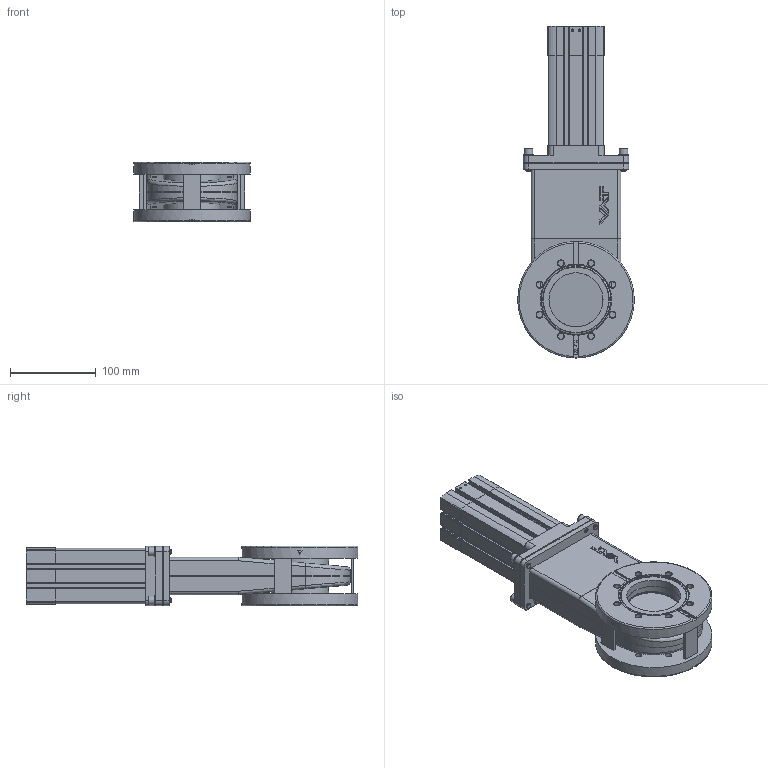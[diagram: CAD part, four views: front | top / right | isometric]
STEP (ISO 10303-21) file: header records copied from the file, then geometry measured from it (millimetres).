
FILE_DESCRIPTION(/* description */ (''),/* implementation_level */ '2;1');
FILE_NAME(/* name */ '1116040310_203.stp',/* time_stamp */ '2019-11-25T09:06:58+01:00',/* author */ (''),/* organization */ (''),/* preprocessor_version */ 'ST-DEVELOPER v16',/* originating_system */ 'SIEMENS PLM Software NX 11.0',/* authorisation */ '');
FILE_SCHEMA (('AP203_CONFIGURATION_CONTROLLED_3D_DESIGN_OF_MECHANICAL_PARTS_AND_ASSEMBLIES_MIM_LF { 1 0 10303 403 2 1 2}'));
Length unit declared in the file: millimetre
Products named in the file (15): 359586.6_27520ID; 255554.2_27532ID; 359586.6_27536ID; 527371; 251262.4; 255557.2; 323148.3_57595ID; 323148.3; 255550.3; n-6134-408; 218189; 527370_NX-ARRAGMNTMassbild; 359599.5_NX-ARRAGMNTZusammenstellung_STANDARD; 393176; 711429
Assembly tree (23 placements, depth 4):
  711429
    218189  x4
    n-6134-408  x4
    255550.3
    393176
      323148.3
      323148.3_57595ID
      359599.5_NX-ARRAGMNTZusammenstellung_STANDARD
        359586.6_27536ID
        255554.2_27532ID
        359586.6_27520ID
      255557.2  x2
      251262.4  x3
    527370_NX-ARRAGMNTMassbild
      527371
Bounding box: 135.8 x 387.5 x 70 mm (x, y, z)
Volume: 972675.5 mm3; surface area: 468712.2 mm2
Topology: 30 solids, 32 shells, 1402 faces, 3834 edges, 2590 vertices
Faces by surface type: plane 681, cylinder 421, bspline 162, cone 105, torus 25, sphere 8
Full cylindrical faces by diameter (mm): 1 x4, 1.2 x2, 2.3 x2, 2.5 x7, 3.8 x5, 4 x1, 4.2 x2, 4.96 x4, 5 x12, 5.2 x2, 5.22 x4, 5.774 x1, 6 x8, 6.4 x4, 6.5 x8, 6.8 x5, 7 x1, 7.2 x16, 8 x2, 8.1 x1, 8.566 x1, 10 x9, 10.4 x1, 10.5 x4, 10.6 x4, 11 x8, 11.6 x4, 13.7 x1, 14 x2, 15 x1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
Entity records: 49489 total; most frequent: CARTESIAN_POINT 15505, ORIENTED_EDGE 6526, DIRECTION 5753, EDGE_CURVE 3263, VERTEX_POINT 2344, AXIS2_PLACEMENT_3D 2195, EDGE_LOOP 1794, LINE 1363
